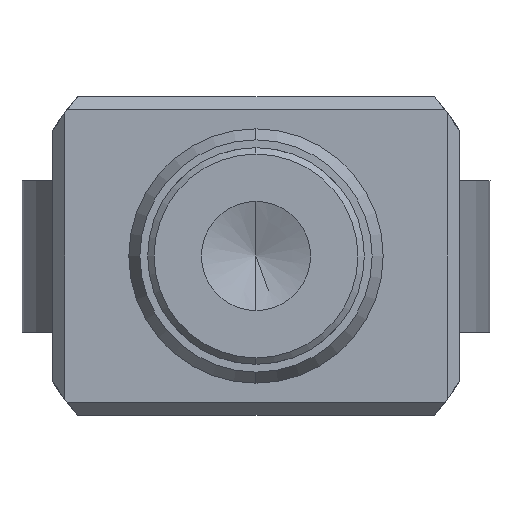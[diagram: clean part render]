
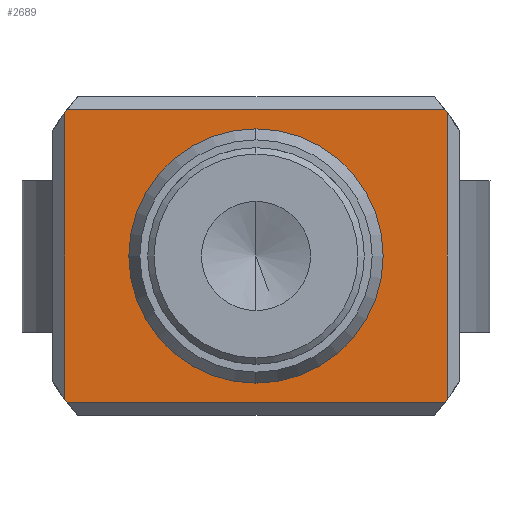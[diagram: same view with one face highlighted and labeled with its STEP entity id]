
A CAD part, front view. The second image highlights one B-rep face of the part: STEP entity #2689.
In plain terms, the highlighted planar face has unit normal (0, -1, 0).
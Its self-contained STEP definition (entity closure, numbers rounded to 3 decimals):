
#8 = PLANE ( 'NONE',  #1094 ) ;
#98 = ORIENTED_EDGE ( 'NONE', *, *, #1568, .F. ) ;
#112 = DIRECTION ( 'NONE',  ( 0., 0., 1. ) ) ;
#122 = CIRCLE ( 'NONE', #3097, 18.75 ) ;
#238 = CARTESIAN_POINT ( 'NONE',  ( -14.809, 43., -11.5 ) ) ;
#247 = DIRECTION ( 'NONE',  ( 0., 0., -1. ) ) ;
#290 = EDGE_CURVE ( 'NONE', #484, #2681, #1234, .T. ) ;
#316 = DIRECTION ( 'NONE',  ( 0., 1., 0. ) ) ;
#348 = CARTESIAN_POINT ( 'NONE',  ( 15., 43., 11.25 ) ) ;
#476 = CARTESIAN_POINT ( 'NONE',  ( 0., 43., 0. ) ) ;
#484 = VERTEX_POINT ( 'NONE', #873 ) ;
#549 = DIRECTION ( 'NONE',  ( 0., 1., 0. ) ) ;
#765 = ORIENTED_EDGE ( 'NONE', *, *, #1212, .F. ) ;
#778 = DIRECTION ( 'NONE',  ( 0., 0., 1. ) ) ;
#813 = CARTESIAN_POINT ( 'NONE',  ( 0., 43., 0. ) ) ;
#873 = CARTESIAN_POINT ( 'NONE',  ( -14.809, 43., 11.5 ) ) ;
#952 = EDGE_LOOP ( 'NONE', ( #1104, #765, #2037, #98, #3802, #3039, #3408, #3619 ) ) ;
#1030 = FACE_OUTER_BOUND ( 'NONE', #952, .T. ) ;
#1031 = VERTEX_POINT ( 'NONE', #1266 ) ;
#1067 = LINE ( 'NONE', #1798, #2371 ) ;
#1077 = CARTESIAN_POINT ( 'NONE',  ( -9.975, 43., 11.5 ) ) ;
#1094 = AXIS2_PLACEMENT_3D ( 'NONE', #2344, #549, #2641 ) ;
#1104 = ORIENTED_EDGE ( 'NONE', *, *, #290, .F. ) ;
#1121 = DIRECTION ( 'NONE',  ( 0., 0., 1. ) ) ;
#1154 = DIRECTION ( 'NONE',  ( 0., 0., -1. ) ) ;
#1212 = EDGE_CURVE ( 'NONE', #1031, #484, #2147, .T. ) ;
#1234 = LINE ( 'NONE', #1077, #1810 ) ;
#1266 = CARTESIAN_POINT ( 'NONE',  ( -15., 43., 11.25 ) ) ;
#1269 = VECTOR ( 'NONE', #1825, 1000. ) ;
#1334 = CARTESIAN_POINT ( 'NONE',  ( -15., 43., -11.25 ) ) ;
#1382 = CIRCLE ( 'NONE', #3045, 18.75 ) ;
#1413 = VERTEX_POINT ( 'NONE', #1334 ) ;
#1543 = CARTESIAN_POINT ( 'NONE',  ( -15., 43., 0. ) ) ;
#1551 = AXIS2_PLACEMENT_3D ( 'NONE', #2006, #3783, #2552 ) ;
#1568 = EDGE_CURVE ( 'NONE', #2629, #1413, #1382, .T. ) ;
#1772 = CARTESIAN_POINT ( 'NONE',  ( 15., 43., 0. ) ) ;
#1780 = VERTEX_POINT ( 'NONE', #2844 ) ;
#1798 = CARTESIAN_POINT ( 'NONE',  ( -9.975, 43., -11.5 ) ) ;
#1810 = VECTOR ( 'NONE', #3197, 1000. ) ;
#1825 = DIRECTION ( 'NONE',  ( 0., 0., 1. ) ) ;
#1844 = VECTOR ( 'NONE', #1154, 1000. ) ;
#1944 = LINE ( 'NONE', #1772, #1844 ) ;
#2006 = CARTESIAN_POINT ( 'NONE',  ( 0., 43., 0. ) ) ;
#2035 = DIRECTION ( 'NONE',  ( 0., -1., 0. ) ) ;
#2037 = ORIENTED_EDGE ( 'NONE', *, *, #3327, .F. ) ;
#2055 = CARTESIAN_POINT ( 'NONE',  ( 0., 43., -9.975 ) ) ;
#2089 = EDGE_CURVE ( 'NONE', #2692, #2558, #3660, .T. ) ;
#2106 = DIRECTION ( 'NONE',  ( 0., 0., 1. ) ) ;
#2147 = CIRCLE ( 'NONE', #2361, 18.75 ) ;
#2227 = EDGE_CURVE ( 'NONE', #1780, #2629, #1067, .T. ) ;
#2344 = CARTESIAN_POINT ( 'NONE',  ( -9.975, 43., 0. ) ) ;
#2361 = AXIS2_PLACEMENT_3D ( 'NONE', #3104, #3682, #112 ) ;
#2371 = VECTOR ( 'NONE', #2997, 1000. ) ;
#2397 = CARTESIAN_POINT ( 'NONE',  ( 0., 43., 0. ) ) ;
#2498 = AXIS2_PLACEMENT_3D ( 'NONE', #813, #2930, #1121 ) ;
#2552 = DIRECTION ( 'NONE',  ( 0., 0., -1. ) ) ;
#2554 = DIRECTION ( 'NONE',  ( 0., 1., 0. ) ) ;
#2558 = VERTEX_POINT ( 'NONE', #3780 ) ;
#2602 = ORIENTED_EDGE ( 'NONE', *, *, #2089, .F. ) ;
#2617 = FACE_BOUND ( 'NONE', #3414, .T. ) ;
#2629 = VERTEX_POINT ( 'NONE', #238 ) ;
#2641 = DIRECTION ( 'NONE',  ( 0., 0., 1. ) ) ;
#2681 = VERTEX_POINT ( 'NONE', #3259 ) ;
#2684 = EDGE_CURVE ( 'NONE', #2799, #3650, #1944, .T. ) ;
#2689 = ADVANCED_FACE ( 'NONE', ( #1030, #2617 ), #8, .F. ) ;
#2692 = VERTEX_POINT ( 'NONE', #2055 ) ;
#2799 = VERTEX_POINT ( 'NONE', #348 ) ;
#2844 = CARTESIAN_POINT ( 'NONE',  ( 14.809, 43., -11.5 ) ) ;
#2874 = ORIENTED_EDGE ( 'NONE', *, *, #3769, .F. ) ;
#2927 = CIRCLE ( 'NONE', #2498, 18.75 ) ;
#2930 = DIRECTION ( 'NONE',  ( 0., 1., 0. ) ) ;
#2997 = DIRECTION ( 'NONE',  ( -1., 0., 0. ) ) ;
#3038 = EDGE_CURVE ( 'NONE', #3650, #1780, #122, .T. ) ;
#3039 = ORIENTED_EDGE ( 'NONE', *, *, #3038, .F. ) ;
#3045 = AXIS2_PLACEMENT_3D ( 'NONE', #2397, #316, #2106 ) ;
#3095 = EDGE_CURVE ( 'NONE', #2681, #2799, #2927, .T. ) ;
#3097 = AXIS2_PLACEMENT_3D ( 'NONE', #476, #2554, #778 ) ;
#3104 = CARTESIAN_POINT ( 'NONE',  ( 0., 43., 0. ) ) ;
#3197 = DIRECTION ( 'NONE',  ( 1., 0., 0. ) ) ;
#3206 = CARTESIAN_POINT ( 'NONE',  ( 15., 43., -11.25 ) ) ;
#3259 = CARTESIAN_POINT ( 'NONE',  ( 14.809, 43., 11.5 ) ) ;
#3327 = EDGE_CURVE ( 'NONE', #1413, #1031, #3658, .T. ) ;
#3408 = ORIENTED_EDGE ( 'NONE', *, *, #2684, .F. ) ;
#3414 = EDGE_LOOP ( 'NONE', ( #2602, #2874 ) ) ;
#3619 = ORIENTED_EDGE ( 'NONE', *, *, #3095, .F. ) ;
#3650 = VERTEX_POINT ( 'NONE', #3206 ) ;
#3658 = LINE ( 'NONE', #1543, #1269 ) ;
#3660 = CIRCLE ( 'NONE', #1551, 9.975 ) ;
#3682 = DIRECTION ( 'NONE',  ( 0., 1., 0. ) ) ;
#3740 = CIRCLE ( 'NONE', #3794, 9.975 ) ;
#3769 = EDGE_CURVE ( 'NONE', #2558, #2692, #3740, .T. ) ;
#3780 = CARTESIAN_POINT ( 'NONE',  ( 0., 43., 9.975 ) ) ;
#3783 = DIRECTION ( 'NONE',  ( 0., -1., 0. ) ) ;
#3794 = AXIS2_PLACEMENT_3D ( 'NONE', #3815, #2035, #247 ) ;
#3802 = ORIENTED_EDGE ( 'NONE', *, *, #2227, .F. ) ;
#3815 = CARTESIAN_POINT ( 'NONE',  ( 0., 43., 0. ) ) ;
